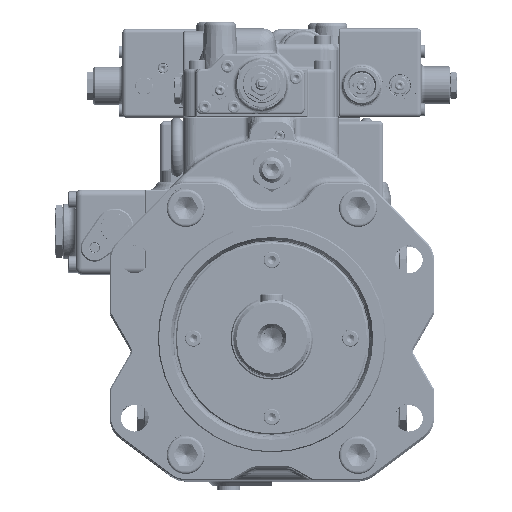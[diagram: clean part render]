
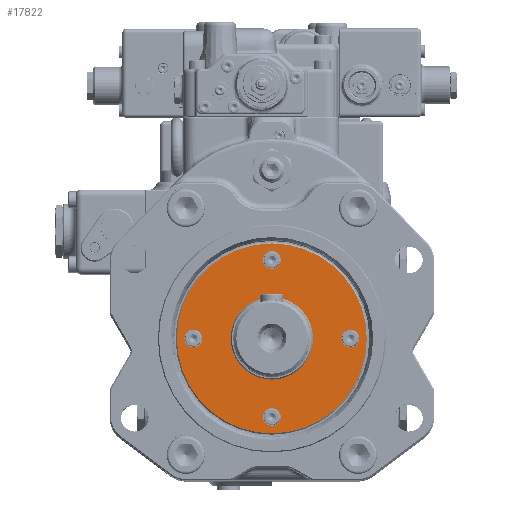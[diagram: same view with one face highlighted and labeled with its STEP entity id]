
A CAD part, top view. The second image highlights one B-rep face of the part: STEP entity #17822.
In plain terms, the highlighted planar face has unit normal (0, 0, 1).
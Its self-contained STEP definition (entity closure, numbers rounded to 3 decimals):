
#10756=CARTESIAN_POINT('',(0.,-32.5,318.5));
#10757=VERTEX_POINT('',#10756);
#10758=CARTESIAN_POINT('',(0.,0.,318.5));
#10759=DIRECTION('',(0.0,0.0,-1.0));
#10760=DIRECTION('',(0.0,1.0,0.0));
#10761=AXIS2_PLACEMENT_3D('',#10758,#10759,#10760);
#10762=CIRCLE('',#10761,32.5);
#10763=EDGE_CURVE('',#10757,#10757,#10762,.T.);
#17580=CARTESIAN_POINT('',(69.,0.,318.5));
#17581=VERTEX_POINT('',#17580);
#17582=CARTESIAN_POINT('',(62.,0.,318.5));
#17583=DIRECTION('',(0.0,0.0,-1.0));
#17584=DIRECTION('',(1.0,0.0,0.0));
#17585=AXIS2_PLACEMENT_3D('',#17582,#17583,#17584);
#17586=CIRCLE('',#17585,7.);
#17587=EDGE_CURVE('',#17581,#17581,#17586,.T.);
#17628=CARTESIAN_POINT('',(7.,62.,318.5));
#17629=VERTEX_POINT('',#17628);
#17630=CARTESIAN_POINT('',(0.,62.,318.5));
#17631=DIRECTION('',(0.0,0.0,-1.0));
#17632=DIRECTION('',(1.0,0.0,0.0));
#17633=AXIS2_PLACEMENT_3D('',#17630,#17631,#17632);
#17634=CIRCLE('',#17633,7.);
#17635=EDGE_CURVE('',#17629,#17629,#17634,.T.);
#17668=CARTESIAN_POINT('',(-55.,0.,318.5));
#17669=VERTEX_POINT('',#17668);
#17670=CARTESIAN_POINT('',(-62.,0.,318.5));
#17671=DIRECTION('',(0.0,0.0,-1.0));
#17672=DIRECTION('',(1.0,0.0,0.0));
#17673=AXIS2_PLACEMENT_3D('',#17670,#17671,#17672);
#17674=CIRCLE('',#17673,7.);
#17675=EDGE_CURVE('',#17669,#17669,#17674,.T.);
#17716=CARTESIAN_POINT('',(7.,-62.,318.5));
#17717=VERTEX_POINT('',#17716);
#17718=CARTESIAN_POINT('',(0.,-62.,318.5));
#17719=DIRECTION('',(0.0,0.0,-1.0));
#17720=DIRECTION('',(1.0,0.0,0.0));
#17721=AXIS2_PLACEMENT_3D('',#17718,#17719,#17720);
#17722=CIRCLE('',#17721,7.);
#17723=EDGE_CURVE('',#17717,#17717,#17722,.T.);
#17787=CARTESIAN_POINT('',(0.,75.,318.5));
#17788=VERTEX_POINT('',#17787);
#17789=CARTESIAN_POINT('',(0.,0.,318.5));
#17790=DIRECTION('',(0.0,0.0,-1.0));
#17791=DIRECTION('',(0.0,-1.0,0.0));
#17792=AXIS2_PLACEMENT_3D('',#17789,#17790,#17791);
#17793=CIRCLE('',#17792,75.0);
#17794=EDGE_CURVE('',#17788,#17788,#17793,.T.);
#17799=CARTESIAN_POINT('',(0.,55.,318.5));
#17800=DIRECTION('',(0.0,0.0,1.0));
#17801=DIRECTION('',(1.0,0.0,0.0));
#17802=AXIS2_PLACEMENT_3D('',#17799,#17800,#17801);
#17803=PLANE('',#17802);
#17804=ORIENTED_EDGE('',*,*,#17794,.F.);
#17805=EDGE_LOOP('',(#17804));
#17806=FACE_OUTER_BOUND('',#17805,.T.);
#17807=ORIENTED_EDGE('',*,*,#10763,.T.);
#17808=EDGE_LOOP('',(#17807));
#17809=FACE_BOUND('',#17808,.T.);
#17810=ORIENTED_EDGE('',*,*,#17587,.T.);
#17811=EDGE_LOOP('',(#17810));
#17812=FACE_BOUND('',#17811,.T.);
#17813=ORIENTED_EDGE('',*,*,#17635,.T.);
#17814=EDGE_LOOP('',(#17813));
#17815=FACE_BOUND('',#17814,.T.);
#17816=ORIENTED_EDGE('',*,*,#17675,.T.);
#17817=EDGE_LOOP('',(#17816));
#17818=FACE_BOUND('',#17817,.T.);
#17819=ORIENTED_EDGE('',*,*,#17723,.T.);
#17820=EDGE_LOOP('',(#17819));
#17821=FACE_BOUND('',#17820,.T.);
#17822=ADVANCED_FACE('',(#17806,#17809,#17812,#17815,#17818,#17821),#17803,.T.);
